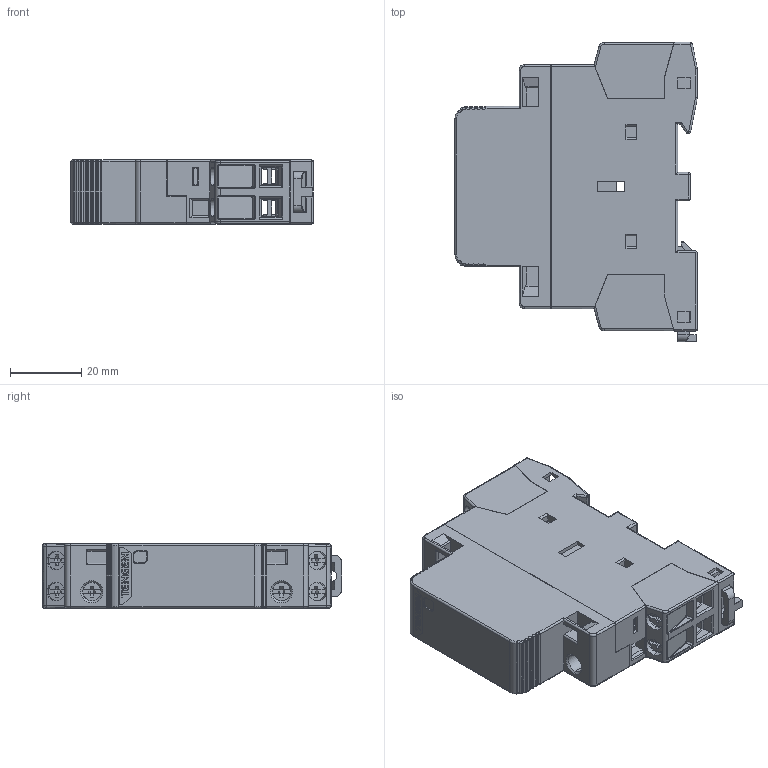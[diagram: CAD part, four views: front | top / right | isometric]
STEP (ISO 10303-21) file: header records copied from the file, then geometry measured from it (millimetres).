
FILE_DESCRIPTION (( 'STEP AP214' ), '1' );
FILE_NAME ('TGCH1N-2511.STEP', '2025-12-12T12:00:34', ( '' ), ( '' ), 'SwSTEP 2.0', 'SolidWorks 2024', '' );
FILE_SCHEMA (( 'AUTOMOTIVE_DESIGN' ));
Length unit declared in the file: millimetre
Products named in the file (5): TGCH1N-2511.stp; 2TZD_401_6000_SW0001_3.stp; 2TZD_401_6000_SW0001_1.stp; TGCH1N-2511; 2TZD_401_6000_SW0001_2.stp
Assembly tree (4 placements, depth 3):
  TGCH1N-2511
    TGCH1N-2511.stp
      2TZD_401_6000_SW0001_1.stp
      2TZD_401_6000_SW0001_2.stp
      2TZD_401_6000_SW0001_3.stp
Bounding box: 68.05 x 84 x 18 mm (x, y, z)
Volume: 27091.8 mm3; surface area: 42796.9 mm2
Topology: 3 solids, 3 shells, 2941 faces, 8088 edges, 5100 vertices
Faces by surface type: plane 1920, cylinder 646, torus 120, bspline 119, sphere 72, cone 64
Entity records: 99663 total; most frequent: CARTESIAN_POINT 25912, ORIENTED_EDGE 16046, DIRECTION 14296, EDGE_CURVE 8023, VECTOR 6100, LINE 6100, VERTEX_POINT 5100, AXIS2_PLACEMENT_3D 4098
